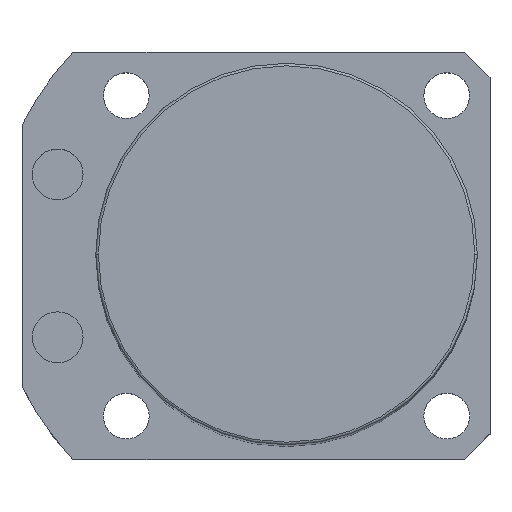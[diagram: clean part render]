
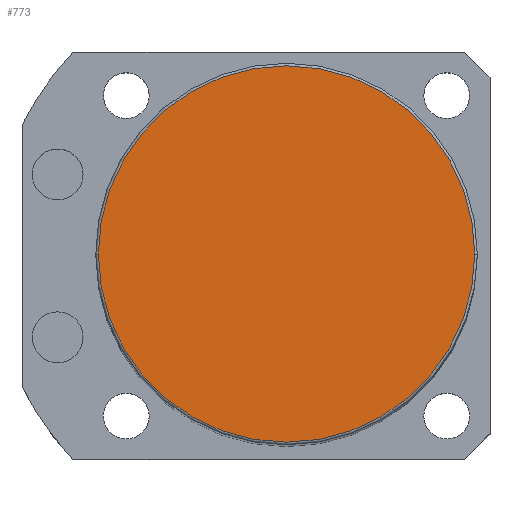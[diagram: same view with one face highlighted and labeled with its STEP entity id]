
A CAD part, top view. The second image highlights one B-rep face of the part: STEP entity #773.
In plain terms, the highlighted planar face has unit normal (0, 0, 1).
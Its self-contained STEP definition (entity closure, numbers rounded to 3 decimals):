
#89 = EDGE_CURVE ( 'NONE', #813, #296, #719, .T. ) ;
#198 = CARTESIAN_POINT ( 'NONE',  ( 0., 0., 225.5 ) ) ;
#249 = DIRECTION ( 'NONE',  ( 0., 0., 1. ) ) ;
#250 = EDGE_CURVE ( 'NONE', #296, #813, #544, .T. ) ;
#296 = VERTEX_POINT ( 'NONE', #701 ) ;
#418 = AXIS2_PLACEMENT_3D ( 'NONE', #1359, #688, #2676 ) ;
#422 = DIRECTION ( 'NONE',  ( 0., 0., 1. ) ) ;
#544 = CIRCLE ( 'NONE', #830, 37. ) ;
#688 = DIRECTION ( 'NONE',  ( 0., 0., 1. ) ) ;
#701 = CARTESIAN_POINT ( 'NONE',  ( 37., 0., 225.5 ) ) ;
#719 = CIRCLE ( 'NONE', #2041, 37. ) ;
#773 = ADVANCED_FACE ( 'NONE', ( #1535 ), #2491, .T. ) ;
#813 = VERTEX_POINT ( 'NONE', #2514 ) ;
#830 = AXIS2_PLACEMENT_3D ( 'NONE', #2666, #249, #941 ) ;
#941 = DIRECTION ( 'NONE',  ( 1., 0., 0. ) ) ;
#1266 = EDGE_LOOP ( 'NONE', ( #2105, #2413 ) ) ;
#1359 = CARTESIAN_POINT ( 'NONE',  ( 0., 0., 225.5 ) ) ;
#1535 = FACE_OUTER_BOUND ( 'NONE', #1266, .T. ) ;
#2041 = AXIS2_PLACEMENT_3D ( 'NONE', #198, #422, #2858 ) ;
#2105 = ORIENTED_EDGE ( 'NONE', *, *, #250, .T. ) ;
#2413 = ORIENTED_EDGE ( 'NONE', *, *, #89, .T. ) ;
#2491 = PLANE ( 'NONE',  #418 ) ;
#2514 = CARTESIAN_POINT ( 'NONE',  ( -37., 0., 225.5 ) ) ;
#2666 = CARTESIAN_POINT ( 'NONE',  ( 0., 0., 225.5 ) ) ;
#2676 = DIRECTION ( 'NONE',  ( 1., 0., 0. ) ) ;
#2858 = DIRECTION ( 'NONE',  ( 1., 0., 0. ) ) ;
